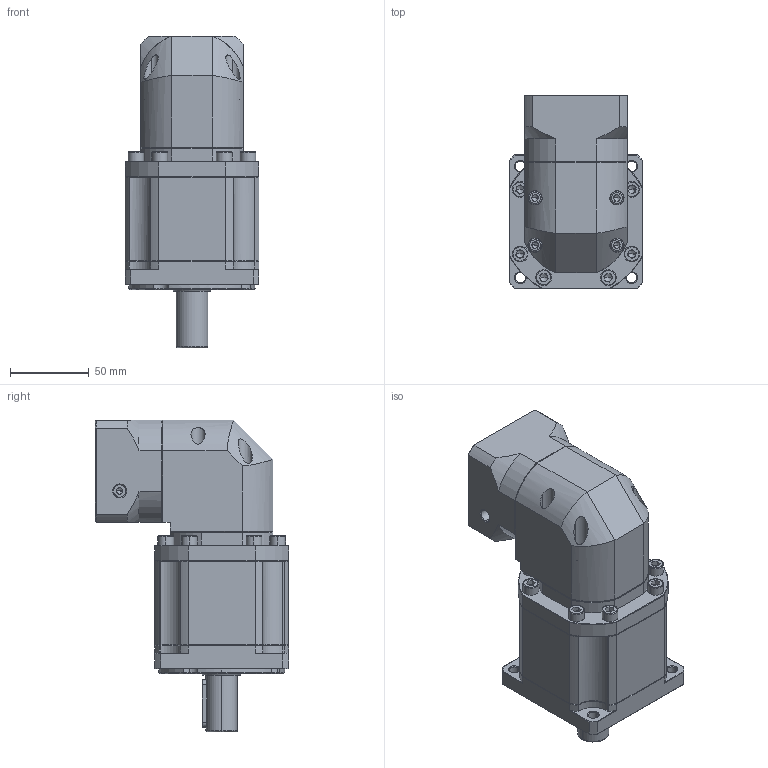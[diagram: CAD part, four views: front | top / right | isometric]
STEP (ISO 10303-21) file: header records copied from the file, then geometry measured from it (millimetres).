
FILE_DESCRIPTION (( 'STEP AP214' ), '1' );
FILE_NAME ('ZBR090-D20-L3-P2-14-60-75-M6.step', '2023-08-19T03:56:56', ( '' ), ( '' ), 'SwSTEP 2.0', 'SolidWorks 2016', '' );
FILE_SCHEMA (( 'AUTOMOTIVE_DESIGN' ));
Length unit declared in the file: millimetre
Products named in the file (1): ZBR090-D20-L3-P2-14-60-75-M6
Bounding box: 85 x 122.7 x 198 mm (x, y, z)
Volume: 935053.4 mm3; surface area: 107128 mm2
Topology: 5 solids, 5 shells, 2434 faces, 6472 edges, 4140 vertices
Faces by surface type: plane 1178, cylinder 441, bspline 426, cone 369, torus 20
Entity records: 129295 total; most frequent: CARTESIAN_POINT 45262, ORIENTED_EDGE 12852, DIRECTION 10376, EDGE_CURVE 6426, VERTEX_POINT 4140, VECTOR 4042, LINE 4042, AXIS2_PLACEMENT_3D 3167
